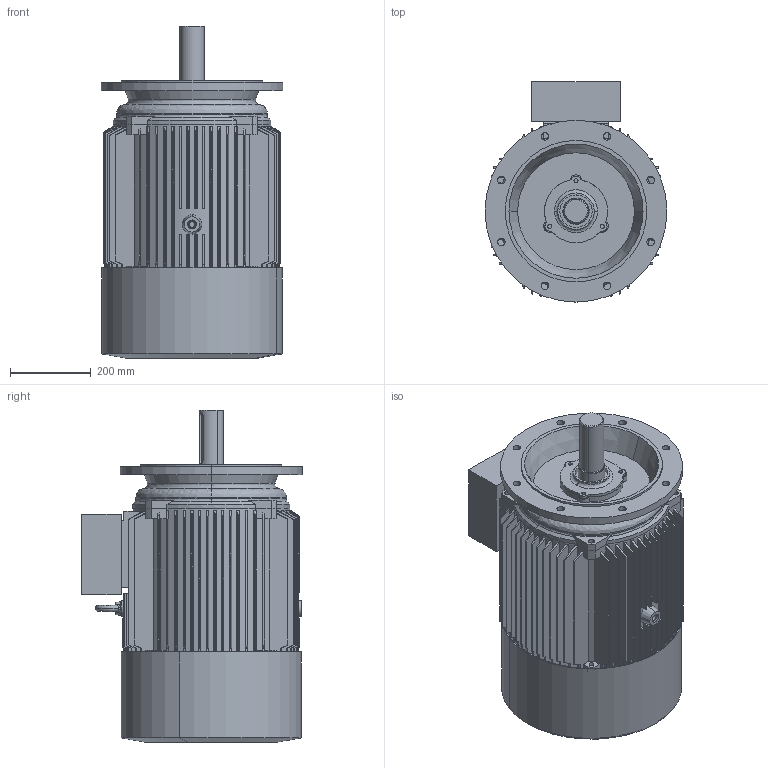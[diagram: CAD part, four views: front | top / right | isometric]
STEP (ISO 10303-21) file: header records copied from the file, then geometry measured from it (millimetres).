
FILE_DESCRIPTION (( 'STEP AP214' ), '1' );
FILE_NAME ('M3-225S-4p-FF-B5.STEP', '2019-05-24T11:26:55', ( '' ), ( '' ), 'SwSTEP 2.0', 'SolidWorks 2012', '' );
FILE_SCHEMA (( 'AUTOMOTIVE_DESIGN' ));
Length unit declared in the file: millimetre
Products named in the file (7): shaft_225-4; Y2-225ﾀiﾍ_-ｼ+､; 225-2-ｦﾈﾁ_-ｼ+､; Y2-200-4.6.8Ã¦Íß¦ð-Ô©Ã_-¼+¤; Eyebolts GB_GB_FASTENER_SCREWS_FRS M16-N; Y2-225SB5+ｷﾎｨ_-ｼ+､; M3-225S-4p-FF-B5
Assembly tree (6 placements, depth 2):
  M3-225S-4p-FF-B5
    Y2-225SB5+ｷﾎｨ_-ｼ+､
    Eyebolts GB_GB_FASTENER_SCREWS_FRS M16-N
    Y2-200-4.6.8Ã¦Íß¦ð-Ô©Ã_-¼+¤
    225-2-ｦﾈﾁ_-ｼ+､
    Y2-225ﾀiﾍ_-ｼ+､
    shaft_225-4
Bounding box: 450 x 545 x 821.5 mm (x, y, z)
Volume: 18468714.4 mm3; surface area: 3819823.8 mm2
Topology: 8 solids, 8 shells, 769 faces, 2034 edges, 1342 vertices
Faces by surface type: cylinder 280, plane 253, cone 190, bspline 46
Entity records: 30693 total; most frequent: CARTESIAN_POINT 11785, ORIENTED_EDGE 4068, DIRECTION 3621, EDGE_CURVE 2034, AXIS2_PLACEMENT_3D 1402, VERTEX_POINT 1342, EDGE_LOOP 898, VECTOR 817
